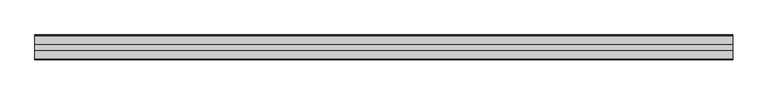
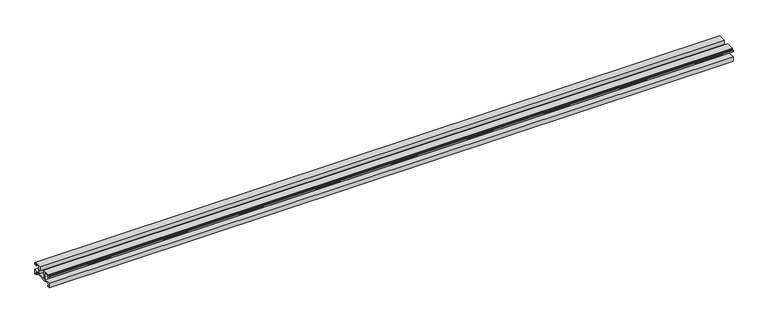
"""IFC4 building model written with IfcOpenShell, lengths in millimetres: proxy geometry, Weiku - Montante - Acoplamento vidro : Weiku - Montante - Acoplamento vidro."""

import ifcopenshell
import ifcopenshell.guid

model = None  # the IFC model being written
_history = None  # IfcOwnerHistory: only IFC2X3 demands one
_inside = {}  # id of a spatial element -> (the spatial element, [elements in it])
_under = {}  # id of a project, library or spatial element -> (it, [spatial elements below it])
_declared = {}  # id of a project -> (the project, [libraries it declares])
_typed = {}  # id of a type object -> (the type object, [elements of that type])
_made_of = {}  # id of a material, layer set ... -> (it, [elements and type objects made of it])


def new_model(schema):
    """Start an empty IFC model of exactly this schema.

    Asked for "IFC4X3", IfcOpenShell would pick the latest addendum, in which some entities
    have other attributes; the version numbers below select the first issue.
    IFC2X3 requires an IfcOwnerHistory on every rooted entity: one is made here for all.
    """
    global model, _history
    if schema == "IFC4X3":
        model = ifcopenshell.file(schema_version=(4, 3, 0, 0))
    else:
        model = ifcopenshell.file(schema=schema)
    _inside.clear()
    _under.clear()
    _declared.clear()
    _typed.clear()
    _made_of.clear()
    _history = None
    if model.schema == "IFC2X3":
        org = make("IfcOrganization", Name="unknown")
        user = make(
            "IfcPersonAndOrganization",
            ThePerson=make("IfcPerson", FamilyName="unknown"),
            TheOrganization=org,
        )
        app = make(
            "IfcApplication",
            ApplicationDeveloper=org,
            Version="unknown",
            ApplicationFullName="unknown",
            ApplicationIdentifier="unknown",
        )
        _history = make(
            "IfcOwnerHistory",
            OwningUser=user,
            OwningApplication=app,
            ChangeAction="ADDED",
            CreationDate=0,
        )
    return model


def make(cls, **values):
    """One entity of the class cls with the attributes given. An attribute that is None is left unset."""
    return model.create_entity(
        cls, **{name: value for name, value in values.items() if value is not None}
    )


def rooted(cls, **values):
    """An entity with a GlobalId (a new one), such as an element, a storey or a relation."""
    return make(cls, GlobalId=ifcopenshell.guid.new(), OwnerHistory=_history, **values)


def si_unit(unit_type, name, prefix=None):
    """IfcSIUnit, for example si_unit("LENGTHUNIT", "METRE", prefix="MILLI")."""
    return make("IfcSIUnit", UnitType=unit_type, Prefix=prefix, Name=name)


def assignment(units):
    """IfcUnitAssignment: the units of a project."""
    return None if units is None else make("IfcUnitAssignment", Units=units)


def point(xyz):
    """IfcCartesianPoint."""
    return None if xyz is None else make("IfcCartesianPoint", Coordinates=xyz)


def direction(xyz):
    """IfcDirection."""
    return None if xyz is None else make("IfcDirection", DirectionRatios=xyz)


def frame(location, z_axis=None, x_axis=None):
    """IfcAxis2Placement3D, a coordinate frame: its origin and axes. An axis left out is left unset."""
    return make(
        "IfcAxis2Placement3D",
        Location=point(location),
        Axis=direction(z_axis),
        RefDirection=direction(x_axis),
    )


def origin():
    """The frame at (0, 0, 0) with its axes left unset."""
    return frame((0.0, 0.0, 0.0))


def place(relative_to, where):
    """IfcLocalPlacement: puts the frame where relative to a parent placement (None: the world)."""
    return make(
        "IfcLocalPlacement", PlacementRelTo=relative_to, RelativePlacement=where
    )


def context(
    kind, dimensions, precision=None, world=None, true_north=None, identifier=None
):
    """IfcGeometricRepresentationContext, for example the 3D "Model" context."""
    return make(
        "IfcGeometricRepresentationContext",
        ContextIdentifier=identifier,
        ContextType=kind,
        CoordinateSpaceDimension=dimensions,
        Precision=precision,
        WorldCoordinateSystem=world,
        TrueNorth=true_north,
    )


def project(units=None, contexts=None):
    """IfcProject with its units and contexts."""
    return rooted(
        "IfcProject",
        Name="project",
        RepresentationContexts=contexts,
        UnitsInContext=assignment(units),
    )


def spatial(cls, under=None, at=None, **own):
    """A site, building, storey or space (cls), placed at a placement, below another one or the project."""
    s = rooted(cls, ObjectPlacement=at, **own)
    if under is not None:
        _under.setdefault(under.id(), (under, []))[1].append(s)
    return s


def polyline(points):
    """IfcPolyline through the points."""
    return make("IfcPolyline", Points=[point(p) for p in points])


def outline(outer, holes=None, kind="AREA"):
    """IfcArbitraryClosedProfileDef: a profile drawn as a closed curve; with holes, ...WithVoids."""
    if holes is None:
        return make("IfcArbitraryClosedProfileDef", ProfileType=kind, OuterCurve=outer)
    return make(
        "IfcArbitraryProfileDefWithVoids",
        ProfileType=kind,
        OuterCurve=outer,
        InnerCurves=holes,
    )


def extrude(swept, where, along, depth):
    """IfcExtrudedAreaSolid: the profile swept, set in the frame where, extruded along a direction by depth."""
    return make(
        "IfcExtrudedAreaSolid",
        SweptArea=swept,
        Position=where,
        ExtrudedDirection=direction(along),
        Depth=depth,
    )


def shape(context_of_items, identifier, shape_type, items):
    """IfcShapeRepresentation: the items that make up one representation, for example the "Body"."""
    return make(
        "IfcShapeRepresentation",
        ContextOfItems=context_of_items,
        RepresentationIdentifier=identifier,
        RepresentationType=shape_type,
        Items=items,
    )


def source(mapping_origin, context_of_items, identifier, shape_type, items):
    """IfcRepresentationMap: a shape defined once, which mapped items show again and again."""
    return make(
        "IfcRepresentationMap",
        MappingOrigin=mapping_origin,
        MappedRepresentation=shape(context_of_items, identifier, shape_type, items),
    )


def transform(
    local_origin,
    x_axis=None,
    y_axis=None,
    z_axis=None,
    scale=None,
    scale2=None,
    scale3=None,
    uniform=True,
):
    """IfcCartesianTransformationOperator3D, or its non-uniform kind. x_axis, y_axis, z_axis: its Axis1, 2, 3."""
    if uniform:
        return make(
            "IfcCartesianTransformationOperator3D",
            Axis1=direction(x_axis),
            Axis2=direction(y_axis),
            LocalOrigin=point(local_origin),
            Scale=scale,
            Axis3=direction(z_axis),
        )
    return make(
        "IfcCartesianTransformationOperator3DnonUniform",
        Axis1=direction(x_axis),
        Axis2=direction(y_axis),
        LocalOrigin=point(local_origin),
        Scale=scale,
        Axis3=direction(z_axis),
        Scale2=scale2,
        Scale3=scale3,
    )


def mapped(mapping_source, mapping_target):
    """IfcMappedItem: shows the shape of a source again, moved by a transform."""
    return make(
        "IfcMappedItem", MappingSource=mapping_source, MappingTarget=mapping_target
    )


def made_of(thing, what):
    """Note that an element or type object is made of a material, layer set ...; save() writes the relation."""
    if what is not None:
        _made_of.setdefault(what.id(), (what, []))[1].append(thing)
    return thing


def element(
    cls,
    number,
    at=None,
    inside=None,
    cuts=None,
    type_object=None,
    material=None,
    context=None,
    identifier="Body",
    shape_type=None,
    held_by="IfcProductDefinitionShape",
    body=None,
    shapes=None,
    **own,
):
    """One element of the class cls, such as IfcWall. Its Tag is "e" and its number.

    at: its placement. inside: the storey or other place that contains it. cuts: it is an
    opening in that element (IfcRelVoidsElement). A single representation is given by context,
    identifier, shape_type and body (its items); several are given by shapes. held_by: the class
    of the entity that holds the representations. save() writes the other relations.
    """
    e = rooted(cls, Tag="e%d" % number, ObjectPlacement=at, **own)
    if body is not None:
        shapes = [shape(context, identifier, shape_type, body)]
    if shapes is not None:
        e.Representation = make(held_by, Representations=shapes)
    if inside is not None:
        _inside.setdefault(inside.id(), (inside, []))[1].append(e)
    if cuts is not None:
        rooted(
            "IfcRelVoidsElement", RelatingBuildingElement=cuts, RelatedOpeningElement=e
        )
    if type_object is not None:
        _typed.setdefault(type_object.id(), (type_object, []))[1].append(e)
    return made_of(e, material)


def aggregate(whole, parts):
    """IfcRelAggregates: a whole, such as a stair, and the parts it consists of."""
    return rooted("IfcRelAggregates", RelatingObject=whole, RelatedObjects=parts)


def save(model, path):
    """Write the relations noted so far, then the file.

    IfcRelAggregates (storeys below a building ...), IfcRelContainedInSpatialStructure (elements
    in a storey), IfcRelDefinesByType, IfcRelAssociatesMaterial and IfcRelDeclares: one each for
    every whole, place, type object, material and project.
    """
    for whole, parts in _under.values():
        aggregate(whole, parts)
    for where, things in _inside.values():
        rooted(
            "IfcRelContainedInSpatialStructure",
            RelatedElements=things,
            RelatingStructure=where,
        )
    for kind, things in _typed.values():
        rooted("IfcRelDefinesByType", RelatedObjects=things, RelatingType=kind)
    for what, things in _made_of.values():
        rooted("IfcRelAssociatesMaterial", RelatedObjects=things, RelatingMaterial=what)
    for by, libraries in _declared.values():
        rooted("IfcRelDeclares", RelatingContext=by, RelatedDefinitions=libraries)
    model.write(path)


def generic_models_348d6ff0(model_context):
    return source(origin(), model_context, "Body", "SweptSolid", [
        extrude(outline(polyline([(-35.405, 5.1494), (-35.405, 6.8004), (-45.741, 6.8004), (-45.741, 2.6094), (-43.8784, 2.6094), (-43.8784, 0.0), (-47.9014508, 0.0), (-47.9014508, 8.79), (-34.946, 8.79), (-34.946, 23.3104), (-43.5397, 23.3104), (-43.5397, 19.204), (-47.9, 19.204), (-47.9, 22.8024), (-46.9264, 22.8024), (-46.9264, 20.3894), (-44.725, 20.3894), (-44.725, 23.9454), (-45.5264504, 23.9454), (-45.5264504, 25.3), (-30.4164, 25.3), (-30.4164, 16.283), (-32.4484, 16.283), (-32.4484, 8.8), (-15.4516, 8.8), (-15.4516, 16.283), (-17.4836, 16.283), (-17.4836, 25.3), (-2.3735496, 25.3), (-2.3735496, 23.9454), (-3.175, 23.9454), (-3.175, 20.3894), (-0.9736, 20.3894), (-0.9736, 22.8024), (0.0, 22.8024), (0.0, 19.204), (-4.3603, 19.204), (-4.3603, 23.3104), (-12.954, 23.3104), (-12.954, 8.79), (0.0014508, 8.79), (0.0014508, 0.0), (-4.0216, 0.0), (-4.0216, 2.6094), (-2.159, 2.6094), (-2.159, 6.8004), (-12.495, 6.8004), (-12.495, 5.1494), (-35.405, 5.1494)])), frame((-670.4333333, 0.0, 0.0), z_axis=(1.0, 0.0, 0.0), x_axis=(0.0, 1.0, 0.0)), (0.0, 0.0, 1.0), 1340.8666667),
    ])


if __name__ == "__main__":
    model = new_model("IFC4")
    model_context = context("Model", 3, world=origin())
    ifc_project = project(units=[si_unit("LENGTHUNIT", "METRE", prefix="MILLI")], contexts=[model_context])
    site = spatial("IfcSite", under=ifc_project)
    building = spatial("IfcBuilding", under=site)
    placement = place(None, origin())
    generic_models_shape = generic_models_348d6ff0(model_context)
    element("IfcBuildingElementProxy", 1, Name="Weiku - Montante - Acoplamento vidro : Weiku - Montante - Acoplamento vidro", ObjectType="Weiku - Montante - Acoplamento vidro : Weiku - Montante - Acoplamento vidro", at=placement, inside=building, context=model_context, shape_type="MappedRepresentation", body=[
        mapped(generic_models_shape, transform((0.0, 0.0, 0.0), x_axis=(1.0, 0.0, 0.0), y_axis=(0.0, 1.0, 0.0), z_axis=(0.0, 0.0, 1.0))),
    ])
    save(model, "model.ifc")
